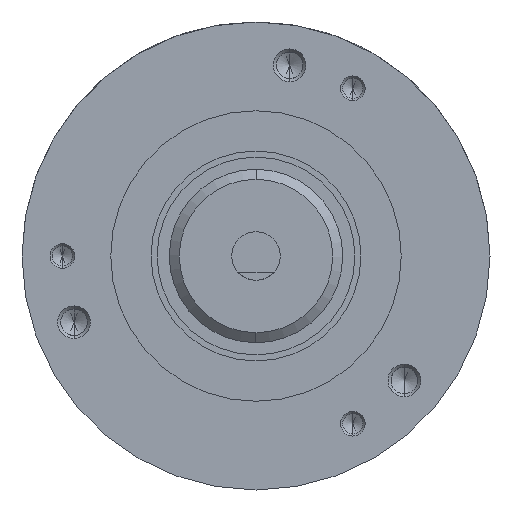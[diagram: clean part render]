
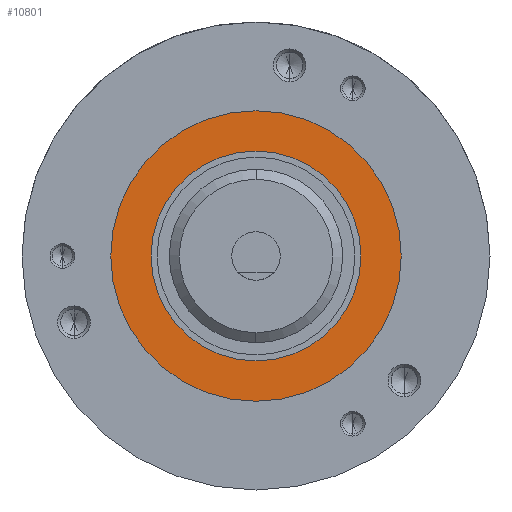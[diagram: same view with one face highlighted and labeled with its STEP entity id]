
A CAD part, left-side view. The second image highlights one B-rep face of the part: STEP entity #10801.
In plain terms, the highlighted planar face has unit normal (-1, 0, 0).
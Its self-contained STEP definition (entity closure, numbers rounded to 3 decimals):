
#629 = CARTESIAN_POINT ( 'NONE',  ( -3.622, 43.423, 0. ) ) ;
#1228 = ORIENTED_EDGE ( 'NONE', *, *, #6854, .F. ) ;
#1791 = FACE_OUTER_BOUND ( 'NONE', #5006, .T. ) ;
#1872 = DIRECTION ( 'NONE',  ( -1., 0., 0. ) ) ;
#2121 = CARTESIAN_POINT ( 'NONE',  ( -3.622, 25.423, 0. ) ) ;
#2166 = AXIS2_PLACEMENT_3D ( 'NONE', #2121, #16973, #15562 ) ;
#2321 = VERTEX_POINT ( 'NONE', #9719 ) ;
#2457 = AXIS2_PLACEMENT_3D ( 'NONE', #6528, #7692, #10532 ) ;
#2493 = CARTESIAN_POINT ( 'NONE',  ( -3.622, 25.423, -13. ) ) ;
#2576 = EDGE_LOOP ( 'NONE', ( #1228, #4364 ) ) ;
#3002 = CIRCLE ( 'NONE', #2457, 13. ) ;
#3099 = EDGE_CURVE ( 'NONE', #2321, #12981, #4183, .T. ) ;
#3176 = CARTESIAN_POINT ( 'NONE',  ( -3.622, 25.423, 13. ) ) ;
#4183 = CIRCLE ( 'NONE', #7872, 18. ) ;
#4317 = CARTESIAN_POINT ( 'NONE',  ( -3.622, 25.423, 0. ) ) ;
#4321 = VERTEX_POINT ( 'NONE', #3176 ) ;
#4364 = ORIENTED_EDGE ( 'NONE', *, *, #8247, .F. ) ;
#4709 = PLANE ( 'NONE',  #7325 ) ;
#5006 = EDGE_LOOP ( 'NONE', ( #15088, #10732 ) ) ;
#5161 = VERTEX_POINT ( 'NONE', #2493 ) ;
#6528 = CARTESIAN_POINT ( 'NONE',  ( -3.622, 25.423, 0. ) ) ;
#6854 = EDGE_CURVE ( 'NONE', #4321, #5161, #3002, .T. ) ;
#7325 = AXIS2_PLACEMENT_3D ( 'NONE', #629, #11104, #11456 ) ;
#7692 = DIRECTION ( 'NONE',  ( -1., 0., 0. ) ) ;
#7872 = AXIS2_PLACEMENT_3D ( 'NONE', #8703, #1872, #12948 ) ;
#8247 = EDGE_CURVE ( 'NONE', #5161, #4321, #15143, .T. ) ;
#8703 = CARTESIAN_POINT ( 'NONE',  ( -3.622, 25.423, 0. ) ) ;
#8714 = FACE_BOUND ( 'NONE', #2576, .T. ) ;
#9592 = EDGE_CURVE ( 'NONE', #12981, #2321, #10132, .T. ) ;
#9719 = CARTESIAN_POINT ( 'NONE',  ( -3.622, 25.423, -18. ) ) ;
#10132 = CIRCLE ( 'NONE', #17435, 18. ) ;
#10532 = DIRECTION ( 'NONE',  ( 0., 0., 1. ) ) ;
#10732 = ORIENTED_EDGE ( 'NONE', *, *, #3099, .T. ) ;
#10801 = ADVANCED_FACE ( 'NONE', ( #8714, #1791 ), #4709, .F. ) ;
#10876 = DIRECTION ( 'NONE',  ( -1., 0., 0. ) ) ;
#11104 = DIRECTION ( 'NONE',  ( 1., 0., 0. ) ) ;
#11456 = DIRECTION ( 'NONE',  ( 0., 0., -1. ) ) ;
#12284 = DIRECTION ( 'NONE',  ( 0., 0., 1. ) ) ;
#12948 = DIRECTION ( 'NONE',  ( 0., 0., 1. ) ) ;
#12981 = VERTEX_POINT ( 'NONE', #13752 ) ;
#13752 = CARTESIAN_POINT ( 'NONE',  ( -3.622, 25.423, 18. ) ) ;
#15088 = ORIENTED_EDGE ( 'NONE', *, *, #9592, .T. ) ;
#15143 = CIRCLE ( 'NONE', #2166, 13. ) ;
#15562 = DIRECTION ( 'NONE',  ( 0., 0., 1. ) ) ;
#16973 = DIRECTION ( 'NONE',  ( -1., 0., 0. ) ) ;
#17435 = AXIS2_PLACEMENT_3D ( 'NONE', #4317, #10876, #12284 ) ;
